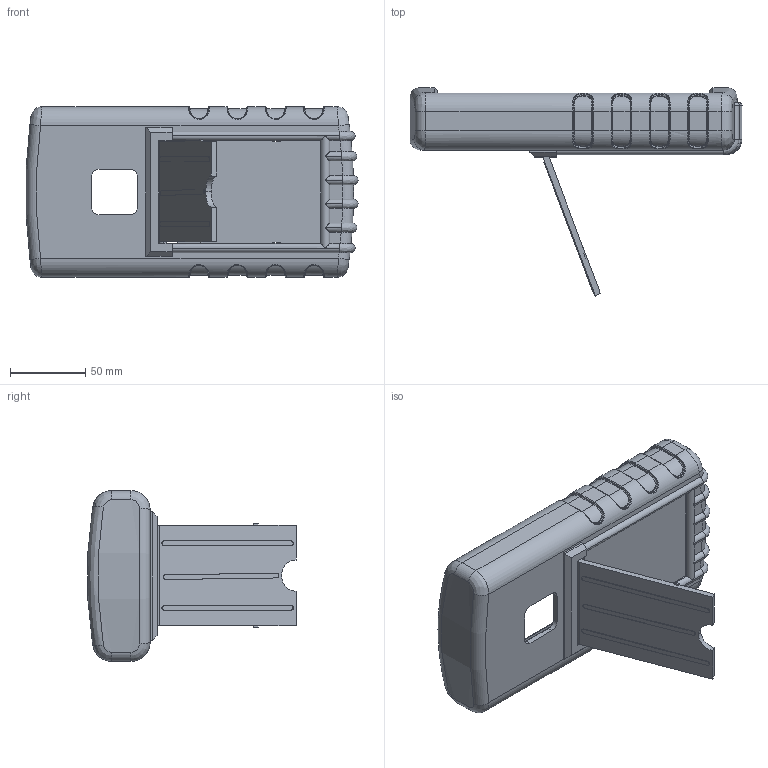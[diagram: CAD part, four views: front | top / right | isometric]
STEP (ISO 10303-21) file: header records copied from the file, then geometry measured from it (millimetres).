
FILE_DESCRIPTION (( 'STEP AP214' ), '1' );
FILE_NAME ('100 RBT.STEP', '2020-07-01T18:39:10', ( 'Rudy' ), ( '' ), 'SwSTEP 2.0', 'SolidWorks 2014', '' );
FILE_SCHEMA (( 'AUTOMOTIVE_DESIGN' ));
Length unit declared in the file: inch
Products named in the file (3): 100 Stand; 100 RBT
Assembly tree (2 placements, depth 2):
  100 RBT
    100 RBT
    100 Stand
Bounding box: 220.26 x 138.14 x 113.28 mm (x, y, z)
Volume: 218339.2 mm3; surface area: 117948.3 mm2
Topology: 2 solids, 2 shells, 595 faces, 1513 edges, 924 vertices
Faces by surface type: plane 192, cylinder 191, bspline 104, torus 102, cone 6
Entity records: 27372 total; most frequent: CARTESIAN_POINT 13580, ORIENTED_EDGE 3026, DIRECTION 2745, EDGE_CURVE 1513, AXIS2_PLACEMENT_3D 1046, VERTEX_POINT 924, VECTOR 653, LINE 653
